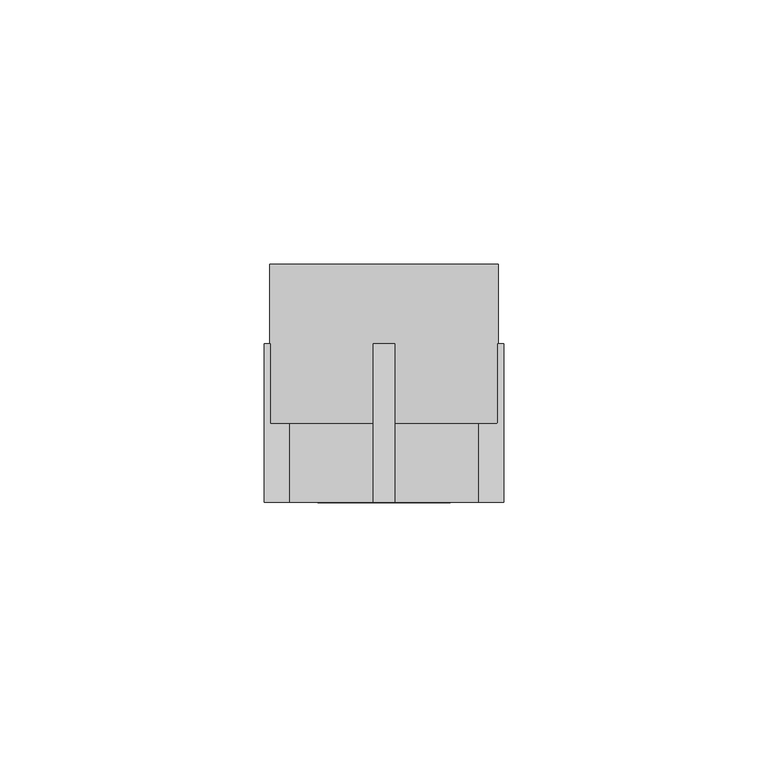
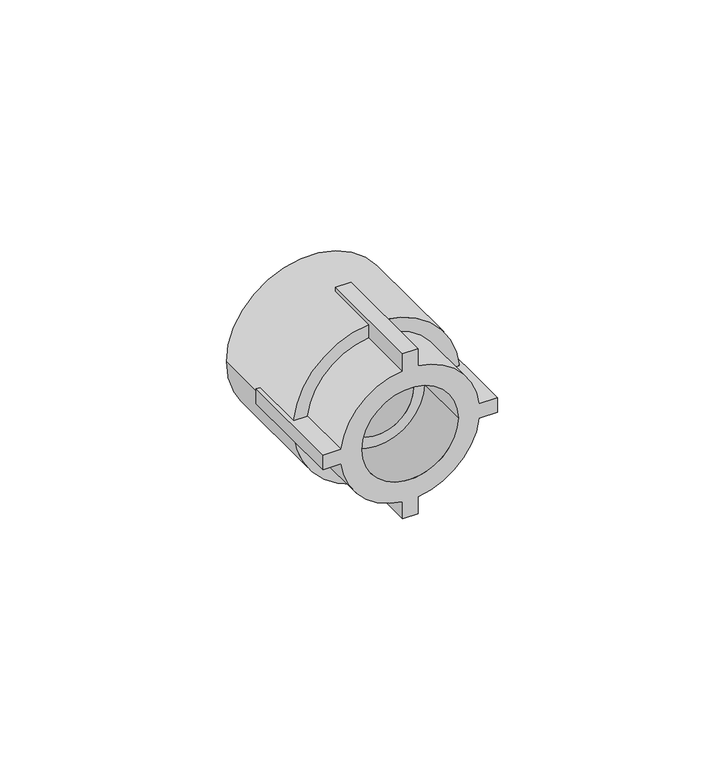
"""IFC4 building model written with IfcOpenShell, lengths in millimetres: pipe fitting geometry, EGB_VASEN_ PPR_Entronque rosca hembra WXR102 : Entronque rosca hembra WXR102."""

from ifc_helpers import new_model, si_unit, point, frame, origin, origin_2d, place, context, project, spatial, polyline, circle_curve, trimmed, segment, composite_curve, outline, extrude, source, transform, mapped, element, save
from ifc_brep_helpers import plane_surface, cylinder_surface, revolved_surface, advanced_brep


def pipe_fitting_3c8a210f(model_context):
    return source(origin(), model_context, "Body", "SolidModel", [
        advanced_brep(
        [(2.0, -15.0, 22.6), (-2.0, -15.0, 22.6), (-2.0, -15.0, 17.8885438), (-17.8885438, -15.0, 2.0), (-22.6, -15.0, 2.0), (-22.6, -15.0, -2.0), (-17.8885438, -15.0, -2.0), (-2.0, -15.0, -17.8885438), (-2.0, -15.0, -22.6), (2.0, -15.0, -22.6), (2.0, -15.0, -17.8885438), (17.8885438, -15.0, -2.0), (22.6, -15.0, -2.0), (22.6, -15.0, 2.0), (17.8885438, -15.0, 2.0), (2.0, -15.0, 17.8885438), (-12.5, -15.0, 0.0), (12.5, -15.0, 0.0), (-2.0, 15.0, 22.6), (2.0, 15.0, 22.6), (2.0, 15.0, 21.5072081), (-2.0, 15.0, 21.5072081), (2.0, 15.0, -22.6), (-2.0, 15.0, -22.6), (-2.0, 15.0, -21.5072081), (2.0, 15.0, -21.5072081), (22.6, 15.0, 2.0), (22.6, 15.0, -2.0), (21.5072081, 15.0, -2.0), (21.6, 15.0, 0.0), (21.5072081, 15.0, 2.0), (-22.6, 15.0, -2.0), (-22.6, 15.0, 2.0), (-21.5072081, 15.0, 2.0), (-21.6, 15.0, 0.0), (-21.5072081, 15.0, -2.0), (2.0, 0.0, 17.8885438), (2.0, 0.0, 21.5072081), (-2.0, 0.0, 21.5072081), (-2.0, 0.0, 17.8885438), (2.0, 0.0, -21.5072081), (2.0, 0.0, -17.8885438), (-2.0, 0.0, -17.8885438), (-2.0, 0.0, -21.5072081), (17.8885438, 0.0, -2.0), (21.5072081, 0.0, -2.0), (21.5072081, 0.0, 2.0), (17.8885438, 0.0, 2.0), (-21.5072081, 0.0, -2.0), (-17.8885438, 0.0, -2.0), (-17.8885438, 0.0, 2.0), (-21.5072081, 0.0, 2.0), (-12.5, 0.0, 0.0), (12.5, 0.0, 0.0), (-9.525, 0.0, 0.0), (9.525, 0.0, 0.0), (-21.6, 30.0, 0.0), (21.6, 30.0, 0.0), (-9.525, 30.0, 0.0), (9.525, 30.0, 0.0)],
        [
            (0, 1),
            (1, 2),
            (2, 3, circle_curve(frame((0.0, -15.0, 0.0), z_axis=(0.0, -1.0, 0.0), x_axis=(1.0, 0.0, 0.0)), 18.0)),
            (3, 4),
            (4, 5),
            (5, 6),
            (6, 7, circle_curve(frame((0.0, -15.0, 0.0), z_axis=(0.0, -1.0, 0.0), x_axis=(1.0, 0.0, 0.0)), 18.0)),
            (7, 8),
            (8, 9),
            (9, 10),
            (10, 11, circle_curve(frame((0.0, -15.0, 0.0), z_axis=(0.0, -1.0, 0.0), x_axis=(1.0, 0.0, 0.0)), 18.0)),
            (11, 12),
            (12, 13),
            (13, 14),
            (14, 15, circle_curve(frame((0.0, -15.0, 0.0), z_axis=(0.0, -1.0, 0.0), x_axis=(1.0, 0.0, 0.0)), 18.0)),
            (15, 0),
            (16, 17, circle_curve(frame((0.0, -15.0, 0.0), z_axis=(0.0, 1.0, 0.0), x_axis=(1.0, 0.0, 0.0)), 12.5)),
            (17, 16, circle_curve(frame((0.0, -15.0, 0.0), z_axis=(0.0, 1.0, 0.0), x_axis=(1.0, 0.0, 0.0)), 12.5)),
            (18, 19),
            (19, 20),
            (20, 21, circle_curve(frame((0.0, 15.0, 0.0), z_axis=(0.0, -1.0, 0.0), x_axis=(1.0, 0.0, 0.0)), 21.6)),
            (21, 18),
            (22, 23),
            (23, 24),
            (24, 25, circle_curve(frame((0.0, 15.0, 0.0), z_axis=(0.0, -1.0, 0.0), x_axis=(1.0, 0.0, 0.0)), 21.6)),
            (25, 22),
            (26, 27),
            (27, 28),
            (28, 29, circle_curve(frame((0.0, 15.0, 0.0), z_axis=(0.0, -1.0, 0.0), x_axis=(1.0, 0.0, 0.0)), 21.6)),
            (29, 30, circle_curve(frame((0.0, 15.0, 0.0), z_axis=(0.0, -1.0, 0.0), x_axis=(1.0, 0.0, 0.0)), 21.6)),
            (30, 26),
            (31, 32),
            (32, 33),
            (33, 34, circle_curve(frame((0.0, 15.0, 0.0), z_axis=(0.0, -1.0, 0.0), x_axis=(1.0, 0.0, 0.0)), 21.6)),
            (34, 35, circle_curve(frame((0.0, 15.0, 0.0), z_axis=(0.0, -1.0, 0.0), x_axis=(1.0, 0.0, 0.0)), 21.6)),
            (35, 31),
            (19, 0),
            (15, 36),
            (36, 37),
            (37, 20),
            (18, 1),
            (21, 38),
            (38, 39),
            (39, 2),
            (8, 23),
            (22, 9),
            (25, 40),
            (40, 41),
            (41, 10),
            (7, 42),
            (42, 43),
            (43, 24),
            (27, 12),
            (11, 44),
            (44, 45),
            (45, 28),
            (26, 13),
            (30, 46),
            (46, 47),
            (47, 14),
            (5, 31),
            (35, 48),
            (48, 49),
            (49, 6),
            (32, 4),
            (3, 50),
            (50, 51),
            (51, 33),
            (49, 42, circle_curve(frame((0.0, 0.0, 0.0), z_axis=(0.0, -1.0, 0.0), x_axis=(1.0, 0.0, 0.0)), 18.0)),
            (41, 44, circle_curve(frame((0.0, 0.0, 0.0), z_axis=(0.0, -1.0, 0.0), x_axis=(1.0, 0.0, 0.0)), 18.0)),
            (39, 50, circle_curve(frame((0.0, 0.0, 0.0), z_axis=(0.0, -1.0, 0.0), x_axis=(1.0, 0.0, 0.0)), 18.0)),
            (47, 36, circle_curve(frame((0.0, 0.0, 0.0), z_axis=(0.0, -1.0, 0.0), x_axis=(1.0, 0.0, 0.0)), 18.0)),
            (16, 52),
            (52, 53, circle_curve(frame((0.0, 0.0, 0.0), z_axis=(0.0, 1.0, 0.0), x_axis=(1.0, 0.0, 0.0)), 12.5)),
            (53, 17),
            (53, 52, circle_curve(frame((0.0, 0.0, 0.0), z_axis=(0.0, 1.0, 0.0), x_axis=(1.0, 0.0, 0.0)), 12.5)),
            (54, 55, circle_curve(frame((0.0, 0.0, 0.0), z_axis=(0.0, 1.0, 0.0), x_axis=(1.0, 0.0, 0.0)), 9.525)),
            (55, 54, circle_curve(frame((0.0, 0.0, 0.0), z_axis=(0.0, 1.0, 0.0), x_axis=(1.0, 0.0, 0.0)), 9.525)),
            (40, 45, circle_curve(frame((0.0, 0.0, 0.0), z_axis=(0.0, -1.0, 0.0), x_axis=(1.0, 0.0, 0.0)), 21.6)),
            (48, 43, circle_curve(frame((0.0, 0.0, 0.0), z_axis=(0.0, -1.0, 0.0), x_axis=(1.0, 0.0, 0.0)), 21.6)),
            (46, 37, circle_curve(frame((0.0, 0.0, 0.0), z_axis=(0.0, -1.0, 0.0), x_axis=(1.0, 0.0, 0.0)), 21.6)),
            (38, 51, circle_curve(frame((0.0, 0.0, 0.0), z_axis=(0.0, -1.0, 0.0), x_axis=(1.0, 0.0, 0.0)), 21.6)),
            (56, 57, circle_curve(frame((0.0, 30.0, 0.0), z_axis=(0.0, 1.0, 0.0), x_axis=(1.0, 0.0, 0.0)), 21.6)),
            (57, 56, circle_curve(frame((0.0, 30.0, 0.0), z_axis=(0.0, 1.0, 0.0), x_axis=(1.0, 0.0, 0.0)), 21.6)),
            (58, 59, circle_curve(frame((0.0, 30.0, 0.0), z_axis=(0.0, -1.0, 0.0), x_axis=(1.0, 0.0, 0.0)), 9.525)),
            (59, 58, circle_curve(frame((0.0, 30.0, 0.0), z_axis=(0.0, -1.0, 0.0), x_axis=(1.0, 0.0, 0.0)), 9.525)),
            (57, 29),
            (34, 56),
            (54, 58),
            (59, 55),
        ],
        [
            plane_surface(frame((0.0, -15.0, 0.0), z_axis=(0.0, -1.0, 0.0), x_axis=(0.0, 0.0, 1.0))),
            plane_surface(frame((0.0, 15.0, 0.0), z_axis=(0.0, 1.0, 0.0), x_axis=(0.0, 0.0, 1.0))),
            plane_surface(frame((2.0, -15.0, 17.0), z_axis=(1.0, 0.0, 0.0), x_axis=(0.0, 1.0, 0.0))),
            plane_surface(frame((2.0, -15.0, 22.6), z_axis=(0.0, 0.0, 1.0), x_axis=(0.0, 1.0, 0.0))),
            plane_surface(frame((-2.0, -15.0, 22.6), z_axis=(-1.0, 0.0, 0.0), x_axis=(0.0, 1.0, 0.0))),
            plane_surface(frame((-2.0, -15.0, -22.6), z_axis=(0.0, 0.0, -1.0), x_axis=(0.0, 1.0, 0.0))),
            plane_surface(frame((2.0, -15.0, -22.6), z_axis=(1.0, 0.0, 0.0), x_axis=(0.0, 1.0, 0.0))),
            plane_surface(frame((-2.0, -15.0, -17.0), z_axis=(-1.0, 0.0, 0.0), x_axis=(0.0, 1.0, 0.0))),
            plane_surface(frame((17.0, -15.0, -2.0), z_axis=(0.0, 0.0, -1.0), x_axis=(0.0, 1.0, 0.0))),
            plane_surface(frame((22.6, -15.0, -2.0), z_axis=(1.0, 0.0, 0.0), x_axis=(0.0, 1.0, 0.0))),
            plane_surface(frame((22.6, -15.0, 2.0), z_axis=(0.0, 0.0, 1.0), x_axis=(0.0, 1.0, 0.0))),
            plane_surface(frame((-22.6, -15.0, -2.0), z_axis=(0.0, 0.0, -1.0), x_axis=(0.0, 1.0, 0.0))),
            plane_surface(frame((-17.0, -15.0, 2.0), z_axis=(0.0, 0.0, 1.0), x_axis=(0.0, 1.0, 0.0))),
            plane_surface(frame((-22.6, -15.0, 2.0), z_axis=(-1.0, 0.0, 0.0), x_axis=(0.0, 1.0, 0.0))),
            cylinder_surface(frame((0.0, 0.0, 0.0), z_axis=(0.0, -1.0, 0.0), x_axis=(1.0, 0.0, 0.0)), 18.0),
            revolved_surface(polyline([(12.5, 0.0, 0.0), (12.5, -15.0, 0.0)]), (0.0, 0.0, 0.0), (0.0, 1.0, 0.0)),
            plane_surface(frame((21.6, 0.0, 0.0), z_axis=(0.0, -1.0, 0.0), x_axis=(0.0, 0.0, 1.0))),
            plane_surface(frame((21.6, 30.0, 0.0), z_axis=(0.0, 1.0, 0.0), x_axis=(0.0, 0.0, -1.0))),
            cylinder_surface(frame((0.0, 30.0, 0.0), z_axis=(0.0, -1.0, 0.0), x_axis=(1.0, 0.0, 0.0)), 21.6),
            revolved_surface(polyline([(9.525, 30.0, 0.0), (9.525, 0.0, 0.0)]), (0.0, 0.0, 0.0), (0.0, 1.0, 0.0)),
        ],
        [
            (0, [[1, 2, 3, 4, 5, 6, 7, 8, 9, 10, 11, 12, 13, 14, 15, 16], [17, 18]]),
            (1, [[19, 20, 21, 22]]),
            (1, [[23, 24, 25, 26]]),
            (1, [[27, 28, 29, 30, 31]]),
            (1, [[32, 33, 34, 35, 36]]),
            (2, [[37, -16, 38, 39, 40, -20]]),
            (3, [[-1, -37, -19, 41]]),
            (4, [[-41, -22, 42, 43, 44, -2]]),
            (5, [[-9, 45, -23, 46]]),
            (6, [[-46, -26, 47, 48, 49, -10]]),
            (7, [[-45, -8, 50, 51, 52, -24]]),
            (8, [[53, -12, 54, 55, 56, -28]]),
            (9, [[-13, -53, -27, 57]]),
            (10, [[-57, -31, 58, 59, 60, -14]]),
            (11, [[61, -36, 62, 63, 64, -6]]),
            (12, [[65, -4, 66, 67, 68, -33]]),
            (13, [[-5, -65, -32, -61]]),
            (14, [[-7, -64, 69, -50]]),
            (14, [[-11, -49, 70, -54]]),
            (14, [[-3, -44, 71, -66]]),
            (14, [[-15, -60, 72, -38]]),
            (15, [[-17, 73, 74, 75]]),
            (15, [[-18, -75, 76, -73]]),
            (16, [[-74, -76], [77, 78]]),
            (16, [[79, -55, -70, -48]]),
            (16, [[80, -51, -69, -63]]),
            (16, [[81, -39, -72, -59]]),
            (16, [[82, -67, -71, -43]]),
            (17, [[83, 84], [85, 86]]),
            (18, [[-84, 87, -29, -56, -79, -47, -25, -52, -80, -62, -35, 88]]),
            (18, [[-83, -88, -34, -68, -82, -42, -21, -40, -81, -58, -30, -87]]),
            (19, [[-77, 89, -86, 90]]),
            (19, [[-78, -90, -85, -89]]),
        ],
    ),
        extrude(outline(composite_curve([segment(trimmed(circle_curve(origin_2d(), 9.525), [point((0.0, -9.525))], [point((0.0, 9.525))], False, "CARTESIAN"), True, "CONTINUOUS"), segment(trimmed(circle_curve(origin_2d(), 9.525), [point((0.0, 9.525))], [point((0.0, -9.525))], False, "CARTESIAN"), True, "CONTINUOUS")], self_intersect=False)), frame((0.0, 15.0, 0.0), z_axis=(0.0, 1.0, 0.0), x_axis=(0.0, 0.0, 1.0)), (0.0, 0.0, 1.0), 15.0),
    ])


if __name__ == "__main__":
    model = new_model("IFC4")
    model_context = context("Model", 3, world=origin())
    ifc_project = project(units=[si_unit("LENGTHUNIT", "METRE", prefix="MILLI")], contexts=[model_context])
    site = spatial("IfcSite", under=ifc_project)
    building = spatial("IfcBuilding", under=site)
    placement = place(None, origin())
    pipe_fitting_shape = pipe_fitting_3c8a210f(model_context)
    element("IfcPipeFitting", 1, ObjectType="EGB_VASEN_ PPR_Entronque rosca hembra WXR102 : Entronque rosca hembra WXR102", at=placement, inside=building, context=model_context, shape_type="MappedRepresentation", body=[
        mapped(pipe_fitting_shape, transform((0.0, 0.0, 0.0), x_axis=(1.0, 0.0, 0.0), y_axis=(0.0, 1.0, 0.0), z_axis=(0.0, 0.0, 1.0))),
    ])
    save(model, "model.ifc")
